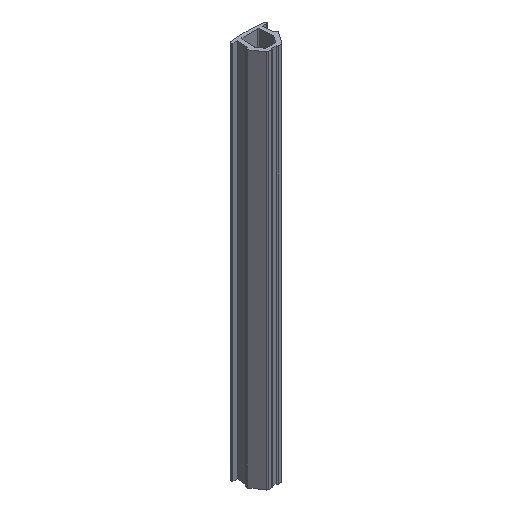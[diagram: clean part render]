
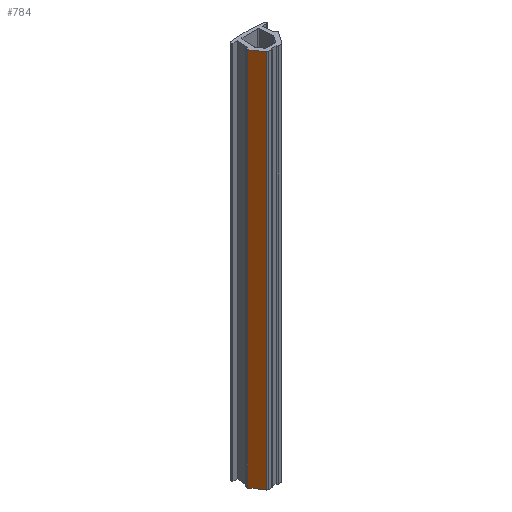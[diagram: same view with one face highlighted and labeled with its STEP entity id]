
A CAD part, isometric view. The second image highlights one B-rep face of the part: STEP entity #784.
In plain terms, the highlighted planar face has unit normal (-0.823, -0.568, 0).
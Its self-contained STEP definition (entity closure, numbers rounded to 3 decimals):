
#34=PLANE('',#876);
#73=FACE_OUTER_BOUND('',#113,.T.);
#113=EDGE_LOOP('',(#638,#639,#640,#641));
#189=LINE('',#1315,#269);
#190=LINE('',#1319,#270);
#191=LINE('',#1321,#271);
#192=LINE('',#1322,#272);
#269=VECTOR('',#1082,10.);
#270=VECTOR('',#1087,10.);
#271=VECTOR('',#1088,10.);
#272=VECTOR('',#1089,10.);
#382=VERTEX_POINT('',#1312);
#383=VERTEX_POINT('',#1314);
#384=VERTEX_POINT('',#1318);
#385=VERTEX_POINT('',#1320);
#490=EDGE_CURVE('',#383,#382,#189,.T.);
#492=EDGE_CURVE('',#382,#384,#190,.T.);
#493=EDGE_CURVE('',#385,#384,#191,.T.);
#494=EDGE_CURVE('',#385,#383,#192,.T.);
#638=ORIENTED_EDGE('',*,*,#492,.T.);
#639=ORIENTED_EDGE('',*,*,#493,.F.);
#640=ORIENTED_EDGE('',*,*,#494,.T.);
#641=ORIENTED_EDGE('',*,*,#490,.T.);
#784=ADVANCED_FACE('',(#73),#34,.T.);
#876=AXIS2_PLACEMENT_3D('',#1317,#1085,#1086);
#1082=DIRECTION('',(0.,0.,1.));
#1085=DIRECTION('center_axis',(-0.823,-0.568,0.));
#1086=DIRECTION('ref_axis',(0.,0.,1.));
#1087=DIRECTION('',(-0.568,0.823,0.));
#1088=DIRECTION('',(0.,0.,1.));
#1089=DIRECTION('',(0.568,-0.823,0.));
#1312=CARTESIAN_POINT('',(7.19,5.183,100.));
#1314=CARTESIAN_POINT('',(7.19,5.183,0.));
#1315=CARTESIAN_POINT('',(7.19,5.183,0.));
#1317=CARTESIAN_POINT('Origin',(7.19,5.183,0.));
#1318=CARTESIAN_POINT('',(5.205,8.059,100.));
#1319=CARTESIAN_POINT('',(5.205,8.059,100.));
#1320=CARTESIAN_POINT('',(5.205,8.059,0.));
#1321=CARTESIAN_POINT('',(5.205,8.059,0.));
#1322=CARTESIAN_POINT('',(5.205,8.059,0.));
